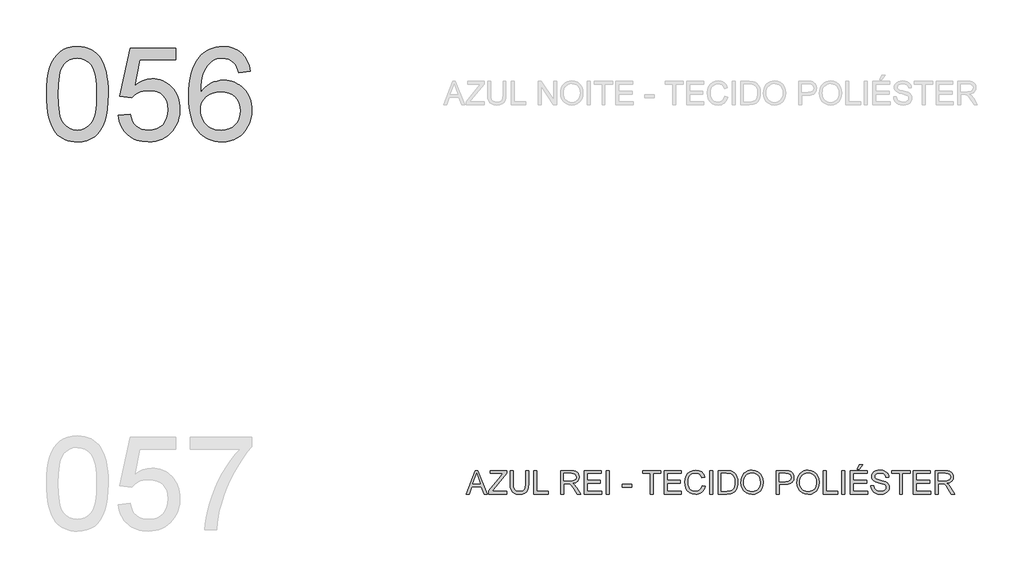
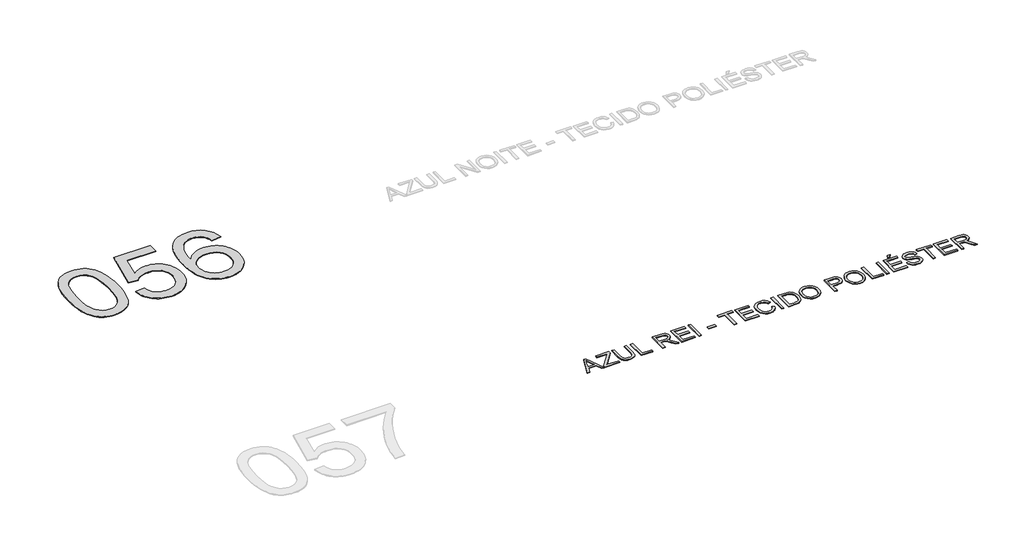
# One storey, part 49 of 67: 2 proxies.
"""IFC4 building model written with IfcOpenShell, lengths in millimetres."""

from ifc_helpers import new_model, si_unit, origin, origin_with_axes, place, context, project, spatial, polyline, outline, extrude, element, save

model = new_model("IFC4")

# Units and contexts
model_context = context("Model", 3, world=origin())
ifc_project = project(units=[si_unit("LENGTHUNIT", "METRE", prefix="MILLI")], contexts=[model_context])

# Site, building, storey
site = spatial("IfcSite", under=ifc_project)
building = spatial("IfcBuilding", under=site)
storey = spatial("IfcBuildingStorey", under=building, Name="Marelli - Linha COLAB - Planta Baixa", Elevation=0.0)

# Proxies
placement = place(None, origin())
element("IfcBuildingElementProxy", 1, Name="1200mm Arial", ObjectType="1200mm Arial", at=placement, inside=storey, context=model_context, shape_type="SweptSolid", body=[
    extrude(outline(polyline([(-134.0424838, -42395.792664), (-131.2741718, -42294.4319773), (-122.9692358, -42202.8385576), (-109.1276757, -42121.0124048), (-89.7494916, -42048.953519), (-64.9174569, -41986.073289), (-34.7143451, -41931.7831035), (0.8598438, -41886.0829627), (41.8051099, -41848.9728664), (88.2594088, -41820.2596767), (140.3606964, -41799.7502555), (198.1089726, -41787.4446027), (261.5042374, -41783.3427185), (309.1449558, -41785.7707396), (354.357653, -41793.0548031), (397.142329, -41805.194909), (437.4989839, -41822.1910572), (474.4527303, -41843.7581391), (507.028681, -41869.6110463), (535.2268359, -41899.7497788), (559.0471951, -41934.1743365), (579.685375, -41972.7467637), (598.3369922, -42015.3291046), (629.6805382, -42112.5235278), (641.6550971, -42169.6831928), (650.2083535, -42235.9479371), (655.3403073, -42311.3177609), (657.0509586, -42395.792664), (654.3102377, -42496.5095573), (646.0880752, -42587.6431245), (632.3844708, -42669.1933658), (613.1994248, -42741.1602811), (588.5605282, -42804.0681023), (558.4953721, -42858.4410612), (523.0039566, -42904.2791578), (482.0862817, -42941.5823921), (435.5768005, -42970.4887199), (383.309966, -42991.1360968), (325.2857783, -43003.524523), (261.5042374, -43007.6539984), (218.829926, -43005.8605737), (178.5100593, -43000.4802995), (140.5446374, -42991.5131759), (104.9336602, -42978.9592028), (71.6771279, -42962.8183803), (40.7750403, -42943.0907083), (12.2273975, -42919.7761868), (-13.9658006, -42892.8748159), (-42.1087732, -42850.2786794), (-66.4993495, -42802.0999336), (-87.1375294, -42748.3385785), (-104.023313, -42688.9946142), (-117.1567002, -42624.0680406), (-126.5376911, -42553.5588577), (-132.1662856, -42477.4670655), (-134.0424838, -42395.792664)]), holes=[polyline([(16.6419814, -42395.4983584), (21.0565653, -42526.4919399), (34.3003172, -42632.5247279), (44.233131, -42676.1808245), (56.3732369, -42713.5967226), (70.7206347, -42744.7724225), (87.2753245, -42769.7079239), (124.6521352, -42807.884878), (166.1492242, -42835.1541309), (211.7665916, -42851.5156826), (261.5042374, -42856.9695332), (311.2418831, -42851.4972885), (356.8592505, -42835.0805545), (398.3563396, -42807.7193311), (435.7331503, -42769.4136183), (452.2878401, -42744.418336), (466.6352379, -42713.2104465), (478.7753437, -42675.7899498), (488.7081576, -42632.1568459), (501.9519094, -42526.2528166), (506.3664934, -42395.4983584), (502.0990622, -42267.9720648), (489.2967688, -42163.8062779), (479.6950487, -42120.4835744), (467.9596131, -42083.0009976), (454.0904619, -42051.3585475), (438.0875951, -42025.5562241), (401.3361838, -41985.5122689), (359.3608481, -41956.9094438), (312.1615881, -41939.7477487), (259.7384038, -41934.0271837), (210.2582755, -41939.067167), (165.4134603, -41954.187117), (125.2039582, -41979.3870337), (89.6297692, -42014.666917), (72.5232565, -42043.2145599), (57.6976121, -42077.2068562), (45.152836, -42116.6438061), (34.8889284, -42161.5254095), (21.2037181, -42267.6225769), (16.6419814, -42395.4983584)])]), origin_with_axes(), (0.0, 0.0, 1.0), 10.0),
    extrude(outline(polyline([(788.8998657, -42668.6139517), (939.5843309, -42649.7783935), (950.84152, -42698.2192552), (967.2490569, -42740.2405761), (988.8069419, -42775.8423562), (1015.5151747, -42805.0245955), (1047.3185732, -42827.7505057), (1084.161955, -42843.9832988), (1126.0453202, -42853.7229746), (1172.9686686, -42856.9695332), (1230.3582599, -42852.4537817), (1280.9788224, -42838.9065272), (1324.8303563, -42816.3277698), (1361.9128614, -42784.7175093), (1391.3986033, -42745.6392444), (1412.4598475, -42700.6564734), (1425.096594, -42649.7691965), (1429.3088429, -42592.9774135), (1425.3633085, -42539.3034304), (1413.5267053, -42491.5891356), (1393.7990333, -42449.8345291), (1366.1802925, -42414.039611), (1330.5785124, -42385.3264213), (1286.9017225, -42364.817), (1235.1499229, -42352.5113473), (1175.3231134, -42348.4094631), (1137.0357948, -42350.0465379), (1102.224961, -42354.9577626), (1070.890612, -42363.143137), (1043.0327479, -42374.6026611), (995.7599116, -42404.6954083), (958.4198891, -42442.5872538), (807.7354238, -42423.7516957), (939.5843309, -41802.1782766), (1523.4866336, -41802.1782766), (1523.4866336, -41952.8627418), (1061.4268477, -41952.8627418), (996.9739222, -42284.8394543), (1050.1512646, -42246.7268796), (1104.6161939, -42219.503612), (1160.3687103, -42203.1696514), (1217.4088137, -42197.7249978), (1254.8477045, -42199.4126565), (1290.7920746, -42204.4756324), (1325.2419242, -42212.9139257), (1358.1972532, -42224.7275363), (1389.6580616, -42239.9164642), (1419.6243494, -42258.4807093), (1448.0961165, -42280.4202718), (1475.0733631, -42305.7351516), (1499.6639752, -42333.7033803), (1520.975839, -42363.6029895), (1539.0089546, -42395.4339791), (1553.7633219, -42429.1963492), (1565.2389408, -42464.8900998), (1573.4358115, -42502.5152308), (1578.353934, -42542.0717424), (1579.9933081, -42583.5596344), (1574.0888021, -42661.6241938), (1566.7081696, -42698.6147284), (1556.375284, -42734.2440996), (1543.0901455, -42768.5123075), (1526.8527539, -42801.4193519), (1507.6631093, -42832.965233), (1485.5212117, -42863.1499507), (1455.520435, -42897.0180869), (1422.9076962, -42926.3704716), (1387.6829951, -42951.2071048), (1349.8463319, -42971.5279865), (1309.3977066, -42987.3331167), (1266.337119, -42998.6224954), (1220.6645693, -43005.3961227), (1172.3800575, -43007.6539984), (1094.6190007, -43001.8506599), (1058.5596674, -42994.5964869), (1024.3811308, -42984.4406445), (992.0833909, -42971.383133), (961.6664477, -42955.4239522), (933.1303012, -42936.5631021), (906.4749513, -42914.8005828), (882.1372581, -42890.6422321), (860.5540813, -42864.5938875), (841.7254209, -42836.6555493), (825.651277, -42806.8272173), (812.3316495, -42775.1088915), (801.7665385, -42741.500572), (788.8998657, -42668.6139517)])), origin_with_axes(), (0.0, 0.0, 1.0), 10.0),
    extrude(outline(polyline([(2484.1000995, -42103.5472071), (2333.4156342, -42122.3827652), (2322.3423862, -42082.0812927), (2309.1354225, -42047.7027202), (2293.7947433, -42019.2470479), (2276.3203486, -41996.7142757), (2243.9283389, -41969.2886729), (2207.9678739, -41949.6989567), (2168.4389535, -41937.9451269), (2125.3415778, -41934.0271837), (2089.804177, -41936.3080521), (2055.2968459, -41943.1506572), (2021.8195843, -41954.554999), (1989.3723923, -41970.5210776), (1959.7670888, -41996.6315022), (1932.7553533, -42028.1681863), (1908.3371859, -42065.1311297), (1886.5125865, -42107.5203326), (1868.4403835, -42158.1316981), (1855.2794051, -42219.7611293), (1847.0296514, -42292.4086263), (1843.6911222, -42376.0741891), (1872.413509, -42338.2099347), (1904.1341341, -42305.5512106), (1938.8529974, -42278.0980167), (1976.5700989, -42255.8503531), (2016.2737632, -42238.6610669), (2056.9523149, -42226.3830053), (2098.6057538, -42219.0161683), (2141.2340799, -42216.560556), (2178.1326441, -42218.2390176), (2213.6332566, -42223.2744024), (2247.7359176, -42231.6667104), (2280.4406269, -42243.4159416), (2311.7473847, -42258.5220961), (2341.6561909, -42276.9851737), (2370.1670455, -42298.8051745), (2397.2799486, -42323.9820986), (2422.0430054, -42351.81697), (2443.5043213, -42381.6108131), (2461.6638963, -42413.3636278), (2476.5217304, -42447.0754142), (2488.0778235, -42482.7461721), (2496.3321758, -42520.3759017), (2501.2847872, -42559.9646029), (2502.9356576, -42601.5122757), (2499.8270547, -42656.4462547), (2490.5012462, -42709.4120649), (2474.9582319, -42760.4097065), (2453.1980119, -42809.4391794), (2425.9931383, -42854.6702707), (2394.1161634, -42894.2727675), (2357.5670872, -42928.2466698), (2316.3459097, -42956.5919775), (2271.3355475, -42978.9316116), (2223.4189177, -42994.8884932), (2172.59602, -43004.4626221), (2118.8668546, -43007.6539984), (2072.8655104, -43005.5386769), (2029.0392685, -42999.1927125), (1987.3881288, -42988.6161052), (1947.9120915, -42973.8088549), (1910.6111564, -42954.7709616), (1875.4853237, -42931.5024254), (1842.5345932, -42904.0032463), (1811.7589651, -42872.2734242), (1783.9263929, -42835.6875598), (1759.8048303, -42793.6202536), (1739.3942774, -42746.0715057), (1722.694734, -42693.0413161), (1709.7062003, -42634.5296848), (1700.4286763, -42570.5366117), (1694.8621618, -42501.062097), (1693.006657, -42426.1061404), (1695.0667962, -42342.1784618), (1701.2472137, -42264.1828803), (1711.5479096, -42192.1193959), (1725.9688838, -42125.9880088), (1744.5101363, -42065.7887188), (1767.1716673, -42011.521526), (1793.9534765, -41963.1864303), (1824.8555641, -41920.7834319), (1854.8701364, -41888.5707647), (1887.3771092, -41860.6531198), (1922.3764825, -41837.0304971), (1959.8682563, -41817.7028968), (1999.8524307, -41802.6703188), (2042.3290055, -41791.9327631), (2087.2979809, -41785.4902296), (2134.7593568, -41783.3427185), (2204.1602952, -41788.6586133), (2266.9761459, -41804.6062978), (2323.2069089, -41831.1857719), (2372.8525841, -41868.3970358), (2414.5704024, -41914.9892904), (2447.0175943, -41969.7117372), (2470.19416, -42032.5643761), (2484.1000995, -42103.5472071)]), holes=[polyline([(1843.6911222, -42599.157831), (1845.8708231, -42632.9202011), (1852.4099255, -42665.9284131), (1863.3084296, -42698.182467), (1878.5663354, -42729.6823629), (1897.4386817, -42758.9473756), (1919.1805077, -42784.4967801), (1943.7918131, -42806.3305766), (1971.2725982, -42824.4487648), (2001.4481188, -42838.676601), (2034.1436312, -42848.8393411), (2069.3591351, -42854.9369852), (2107.0946308, -42856.9695332), (2159.4718299, -42852.7572843), (2206.5331341, -42840.1205378), (2248.2785435, -42819.0592936), (2284.7080581, -42789.5735517), (2314.2581793, -42752.8589286), (2335.3654088, -42710.1110407), (2348.0297465, -42661.3298882), (2352.2511924, -42606.5154709), (2348.0849288, -42553.8439662), (2335.586138, -42507.0769676), (2314.75482, -42466.214475), (2285.5909749, -42431.2564884), (2249.0510957, -42403.2514715), (2206.0916757, -42383.247888), (2156.7127149, -42371.2457379), (2100.9142133, -42367.2450212), (2049.23599, -42371.2457379), (2001.6228628, -42383.247888), (1958.0748316, -42403.2514715), (1918.5918965, -42431.2564884), (1885.8228077, -42465.7546225), (1862.4163158, -42505.2375576), (1848.3724206, -42549.7052938), (1843.6911222, -42599.157831)])]), origin_with_axes(), (0.0, 0.0, 1.0), 10.0),
])
element("IfcBuildingElementProxy", 2, Name="300mm Arial", ObjectType="300mm Arial", at=placement, inside=storey, context=model_context, shape_type="SweptSolid", body=[
    extrude(outline(polyline([(5254.2412875, -47530.5663201), (5374.5386999, -47229.1973896), (5406.6180099, -47229.1973896), (5526.9154223, -47530.5663201), (5487.1105904, -47530.5663201), (5452.6032593, -47436.3885293), (5328.4798741, -47436.3885293), (5294.0461193, -47530.5663201), (5254.2412875, -47530.5663201)]), holes=[polyline([(5342.3122371, -47398.717413), (5438.8444726, -47398.717413), (5411.6947814, -47324.6259792), (5390.5783549, -47266.8685059), (5371.8163731, -47318.1512561), (5342.3122371, -47398.717413)])]), origin_with_axes(), (0.0, 0.0, 1.0), 10.0),
    extrude(outline(polyline([(5543.6172649, -47530.5663201), (5543.6172649, -47491.4972522), (5697.7598209, -47302.7737887), (5727.0432277, -47266.8685059), (5562.452823, -47266.8685059), (5562.452823, -47229.1973896), (5774.3528522, -47229.1973896), (5774.3528522, -47266.8685059), (5605.6421693, -47473.397458), (5589.7496671, -47492.8952038), (5779.0617418, -47492.8952038), (5779.0617418, -47530.5663201), (5543.6172649, -47530.5663201)])), origin_with_axes(), (0.0, 0.0, 1.0), 10.0),
    extrude(outline(polyline([(6019.2151082, -47229.1973896), (6056.8862245, -47229.1973896), (6056.8862245, -47403.0584205), (6054.3294447, -47443.7737604), (6046.6591051, -47475.1265034), (6032.3301014, -47499.3147446), (6009.7973292, -47518.5365788), (5979.0056062, -47531.0905519), (5939.8997501, -47535.2752096), (5901.6492196, -47531.6331779), (5871.0690288, -47520.7070826), (5848.1499805, -47502.8740029), (5832.8828777, -47478.5110178), (5824.3020301, -47445.8338995), (5821.4417476, -47403.0584205), (5821.4417476, -47229.1973896), (5859.1128639, -47229.1973896), (5859.1128639, -47401.7340454), (5860.970668, -47435.588386), (5866.5440802, -47459.1604248), (5876.642441, -47475.4851883), (5892.0750907, -47487.597703), (5912.1982358, -47495.1024957), (5936.3680829, -47497.6040933), (5974.6829927, -47492.6560805), (5989.025792, -47486.4710644), (6000.1588209, -47477.812042), (6008.4959466, -47465.6351479), (6014.4510364, -47448.8965171), (6019.2151082, -47401.7340454), (6019.2151082, -47229.1973896)])), origin_with_axes(), (0.0, 0.0, 1.0), 10.0),
    extrude(outline(polyline([(6122.8106781, -47530.5663201), (6122.8106781, -47229.1973896), (6160.4817944, -47229.1973896), (6160.4817944, -47492.8952038), (6311.1662596, -47492.8952038), (6311.1662596, -47530.5663201), (6122.8106781, -47530.5663201)])), origin_with_axes(), (0.0, 0.0, 1.0), 10.0),
    extrude(outline(polyline([(6471.2685039, -47530.5663201), (6471.2685039, -47229.1973896), (6601.1308482, -47229.1973896), (6636.0336525, -47231.2299376), (6661.4267072, -47237.3275817), (6679.9863539, -47248.5847708), (6694.388934, -47266.0959537), (6703.6319691, -47287.8101885), (6706.7129808, -47311.6765329), (6701.6086181, -47341.3646099), (6686.2955301, -47365.9759154), (6674.6957509, -47376.0052983), (6660.3138642, -47384.0205273), (6623.2037679, -47394.0085235), (6644.6145, -47410.1217548), (6675.1487056, -47448.8965171), (6725.4013862, -47530.5663201), (6681.6234288, -47530.5663201), (6642.4072081, -47468.0999573), (6614.0802944, -47426.750021), (6594.1778785, -47407.2154871), (6576.2620253, -47400.0417882), (6554.4098348, -47398.717413), (6508.9396202, -47398.717413), (6508.9396202, -47530.5663201), (6471.2685039, -47530.5663201)]), holes=[polyline([(6508.9396202, -47361.0462967), (6593.2581735, -47361.0462967), (6617.4740058, -47359.7127245), (6636.2635787, -47355.7120078), (6650.4086415, -47348.7774322), (6660.6909432, -47338.6422832), (6666.9541342, -47326.3826157), (6669.0418645, -47313.0744845), (6665.0595419, -47294.6987789), (6653.1125741, -47279.8915286), (6632.5571676, -47270.1242616), (6602.749529, -47266.8685059), (6508.9396202, -47266.8685059), (6508.9396202, -47361.0462967)])]), origin_with_axes(), (0.0, 0.0, 1.0), 10.0),
    extrude(outline(polyline([(6772.6374344, -47530.5663201), (6772.6374344, -47229.1973896), (6989.2463531, -47229.1973896), (6989.2463531, -47266.8685059), (6810.3085507, -47266.8685059), (6810.3085507, -47356.3374072), (6979.828574, -47356.3374072), (6979.828574, -47394.0085235), (6810.3085507, -47394.0085235), (6810.3085507, -47492.8952038), (6993.9552427, -47492.8952038), (6993.9552427, -47530.5663201), (6772.6374344, -47530.5663201)])), origin_with_axes(), (0.0, 0.0, 1.0), 10.0),
    extrude(outline(polyline([(7055.1708067, -47530.5663201), (7055.1708067, -47229.1973896), (7092.841923, -47229.1973896), (7092.841923, -47530.5663201), (7055.1708067, -47530.5663201)])), origin_with_axes(), (0.0, 0.0, 1.0), 10.0),
    extrude(outline(polyline([(7262.3619463, -47441.0974188), (7262.3619463, -47403.4263025), (7380.0841848, -47403.4263025), (7380.0841848, -47441.0974188), (7262.3619463, -47441.0974188)])), origin_with_axes(), (0.0, 0.0, 1.0), 10.0),
    extrude(outline(polyline([(7620.2375512, -47530.5663201), (7620.2375512, -47266.8685059), (7521.3508709, -47266.8685059), (7521.3508709, -47229.1973896), (7756.7953479, -47229.1973896), (7756.7953479, -47266.8685059), (7657.9086676, -47266.8685059), (7657.9086676, -47530.5663201), (7620.2375512, -47530.5663201)])), origin_with_axes(), (0.0, 0.0, 1.0), 10.0),
    extrude(outline(polyline([(7799.1753537, -47530.5663201), (7799.1753537, -47229.1973896), (8015.7842725, -47229.1973896), (8015.7842725, -47266.8685059), (7836.84647, -47266.8685059), (7836.84647, -47356.3374072), (8006.3664934, -47356.3374072), (8006.3664934, -47394.0085235), (7836.84647, -47394.0085235), (7836.84647, -47492.8952038), (8020.493162, -47492.8952038), (8020.493162, -47530.5663201), (7799.1753537, -47530.5663201)])), origin_with_axes(), (0.0, 0.0, 1.0), 10.0),
    extrude(outline(polyline([(8288.8998657, -47423.4390831), (8326.570982, -47433.1511677), (8319.1167731, -47456.5783531), (8309.1885577, -47477.0486868), (8296.786336, -47494.5621691), (8281.9101078, -47509.1187997), (8264.8955655, -47520.5622291), (8246.0784014, -47528.7361071), (8225.4586156, -47533.640434), (8203.036208, -47535.2752096), (8159.341024, -47530.3271968), (8124.6405548, -47515.4831583), (8098.0426866, -47491.2581289), (8078.6553054, -47458.1671434), (8066.8187022, -47419.2636224), (8062.8731678, -47377.6009865), (8067.333737, -47333.6574821), (8080.7154446, -47295.7104543), (8102.3193148, -47264.9647166), (8131.4463717, -47242.6250824), (8165.9904911, -47229.0226457), (8203.8455484, -47224.4885001), (8245.1494994, -47230.3562179), (8263.1182356, -47237.6908652), (8279.2981456, -47247.9593714), (8293.422515, -47260.8904235), (8305.2246292, -47276.2127086), (8321.8620924, -47314.0309777), (8284.1909761, -47323.0072984), (8271.1311653, -47295.5357104), (8253.2888885, -47276.6909552), (8230.4434166, -47265.7924511), (8202.3740204, -47262.1596164), (8170.0187989, -47266.1879242), (8143.4393248, -47278.2728478), (8123.2701944, -47297.1451941), (8110.1460042, -47321.5357704), (8102.9447142, -47349.1085259), (8100.5442841, -47377.5274101), (8103.3861726, -47412.3290468), (8111.9118378, -47442.421794), (8126.4431766, -47466.6560205), (8147.3020857, -47483.8820949), (8172.3088644, -47494.1735937), (8199.2838117, -47497.6040933), (8230.7285252, -47492.931992), (8256.9309203, -47478.9156879), (8276.7137746, -47455.702334), (8288.8998657, -47423.4390831)])), origin_with_axes(), (0.0, 0.0, 1.0), 10.0),
    extrude(outline(polyline([(8383.0776564, -47530.5663201), (8383.0776564, -47229.1973896), (8420.7487727, -47229.1973896), (8420.7487727, -47530.5663201), (8383.0776564, -47530.5663201)])), origin_with_axes(), (0.0, 0.0, 1.0), 10.0),
    extrude(outline(polyline([(8496.0910054, -47530.5663201), (8496.0910054, -47229.1973896), (8600.0544572, -47229.1973896), (8653.8388049, -47233.5383972), (8677.8614992, -47241.9077126), (8698.1317971, -47255.0962821), (8718.9723121, -47278.0521186), (8733.8163506, -47306.5997614), (8742.7007008, -47340.1873876), (8745.6621509, -47378.2631741), (8743.657194, -47410.6091985), (8737.6423234, -47439.0740679), (8728.4820617, -47463.3082943), (8717.0409317, -47482.9623899), (8703.8707562, -47498.477813), (8689.5233584, -47510.2960221), (8673.0514421, -47519.0608107), (8653.5077111, -47525.4159721), (8605.0576523, -47530.5663201), (8496.0910054, -47530.5663201)]), holes=[polyline([(8533.7621217, -47492.8952038), (8600.4223392, -47492.8952038), (8627.9950947, -47491.5340404), (8648.9091862, -47487.4505502), (8664.6913238, -47480.8838566), (8676.8682178, -47472.0730828), (8689.9556198, -47455.7667134), (8699.7872661, -47434.6594839), (8705.9400925, -47408.6594239), (8707.9910346, -47377.6745629), (8703.9719238, -47336.6189322), (8691.9145914, -47306.3054558), (8674.0999058, -47285.4833349), (8652.8087353, -47272.9017706), (8631.1404858, -47268.3768221), (8599.3922696, -47266.8685059), (8533.7621217, -47266.8685059), (8533.7621217, -47492.8952038)])]), origin_with_axes(), (0.0, 0.0, 1.0), 10.0),
    extrude(outline(polyline([(8783.3332672, -47383.8549804), (8785.8440618, -47348.5061192), (8793.3764457, -47317.213157), (8805.9304187, -47289.9760937), (8823.5059811, -47266.7949295), (8845.0500704, -47248.2858666), (8869.5096246, -47235.0651074), (8896.8846435, -47227.1326519), (8927.1751273, -47224.4885001), (8966.7040477, -47229.454907), (9002.1494779, -47244.3541278), (9031.5800375, -47268.1376988), (9053.0643461, -47299.7571563), (9066.1977333, -47337.68579), (9070.575529, -47380.3968896), (9065.967807, -47423.6782064), (9052.1446411, -47462.140269), (9029.8693863, -47493.8149087), (8999.9053978, -47516.733957), (8964.7634702, -47530.6398965), (8926.9543981, -47535.2752096), (8886.8184724, -47530.1524528), (8851.1707071, -47514.7841825), (8821.8137239, -47490.5591531), (8800.5501446, -47458.8661192), (8787.6374865, -47422.3998164), (8783.3332672, -47383.8549804)]), holes=[polyline([(8821.0043835, -47384.2228624), (8822.8874795, -47409.1974513), (8828.5367674, -47431.3669401), (8837.9522472, -47450.7313286), (8851.1339189, -47467.2906169), (8867.1574791, -47480.5527628), (8885.0986241, -47490.0257242), (8904.9573541, -47495.709501), (8926.7336689, -47497.6040933), (8948.8824643, -47495.6911069), (8968.975719, -47489.9521478), (8987.0134331, -47480.3872159), (9002.9956065, -47466.9963113), (9016.0807092, -47450.0875351), (9025.4272112, -47429.9689885), (9031.0351123, -47406.6406715), (9032.9044127, -47380.102584), (9029.7038394, -47346.7540812), (9020.1021193, -47317.9305269), (9004.3475728, -47294.358488), (8982.6885204, -47276.7645316), (8956.5597017, -47265.8108452), (8927.3958565, -47262.1596164), (8906.375999, -47263.9185522), (8886.8736547, -47269.1953595), (8868.8888237, -47277.9900385), (8852.4215059, -47290.302589), (8838.6765148, -47306.7262208), (8828.8586641, -47327.8541437), (8822.9679537, -47353.6863575), (8821.0043835, -47384.2228624)])]), origin_with_axes(), (0.0, 0.0, 1.0), 10.0),
    extrude(outline(polyline([(9240.0955524, -47530.5663201), (9240.0955524, -47229.1973896), (9351.7845261, -47229.1973896), (9396.8132824, -47232.0668692), (9416.8904422, -47237.4287493), (9433.4175409, -47246.1567496), (9446.725672, -47258.6463433), (9457.1459296, -47275.2930036), (9463.8781701, -47294.9287051), (9466.1222502, -47316.3854225), (9464.6070363, -47334.8852883), (9460.0613944, -47351.9044291), (9452.4853245, -47367.4428449), (9441.8788268, -47381.5005356), (9427.3175975, -47393.1531978), (9407.8773334, -47401.476528), (9383.5580342, -47406.470526), (9354.3597001, -47408.1351921), (9277.7666687, -47408.1351921), (9277.7666687, -47530.5663201), (9240.0955524, -47530.5663201)]), holes=[polyline([(9277.7666687, -47370.4640758), (9356.5669921, -47370.4640758), (9389.9706772, -47367.005985), (9412.043597, -47356.6317127), (9424.3492497, -47339.9850525), (9428.4511339, -47317.7097977), (9426.0323098, -47300.7872259), (9418.7758375, -47286.5134045), (9407.5830278, -47275.7712502), (9393.3551916, -47269.4436799), (9355.6840753, -47266.8685059), (9277.7666687, -47266.8685059), (9277.7666687, -47370.4640758)])]), origin_with_axes(), (0.0, 0.0, 1.0), 10.0),
    extrude(outline(polyline([(9503.7933666, -47383.8549804), (9506.3041612, -47348.5061192), (9513.836545, -47317.213157), (9526.3905181, -47289.9760937), (9543.9660804, -47266.7949295), (9565.5101698, -47248.2858666), (9589.9697239, -47235.0651074), (9617.3447429, -47227.1326519), (9647.6352267, -47224.4885001), (9687.164147, -47229.454907), (9722.6095773, -47244.3541278), (9752.0401369, -47268.1376988), (9773.5244454, -47299.7571563), (9786.6578326, -47337.68579), (9791.0356284, -47380.3968896), (9786.4279064, -47423.6782064), (9772.6047404, -47462.140269), (9750.3294856, -47493.8149087), (9720.3654971, -47516.733957), (9685.2235695, -47530.6398965), (9647.4144975, -47535.2752096), (9607.2785718, -47530.1524528), (9571.6308065, -47514.7841825), (9542.2738232, -47490.5591531), (9521.0102439, -47458.8661192), (9508.0975859, -47422.3998164), (9503.7933666, -47383.8549804)]), holes=[polyline([(9541.4644829, -47384.2228624), (9543.3475788, -47409.1974513), (9548.9968667, -47431.3669401), (9558.4123465, -47450.7313286), (9571.5940183, -47467.2906169), (9587.6175784, -47480.5527628), (9605.5587235, -47490.0257242), (9625.4174534, -47495.709501), (9647.1937683, -47497.6040933), (9669.3425636, -47495.6911069), (9689.4358184, -47489.9521478), (9707.4735324, -47480.3872159), (9723.4557059, -47466.9963113), (9736.5408086, -47450.0875351), (9745.8873105, -47429.9689885), (9751.4952117, -47406.6406715), (9753.3645121, -47380.102584), (9750.1639387, -47346.7540812), (9740.5622186, -47317.9305269), (9724.8076722, -47294.358488), (9703.1486197, -47276.7645316), (9677.019801, -47265.8108452), (9647.8559559, -47262.1596164), (9626.8360984, -47263.9185522), (9607.3337541, -47269.1953595), (9589.3489231, -47277.9900385), (9572.8816052, -47290.302589), (9559.1366142, -47306.7262208), (9549.3187635, -47327.8541437), (9543.428053, -47353.6863575), (9541.4644829, -47384.2228624)])]), origin_with_axes(), (0.0, 0.0, 1.0), 10.0),
    extrude(outline(polyline([(9842.8334133, -47530.5663201), (9842.8334133, -47229.1973896), (9880.5045296, -47229.1973896), (9880.5045296, -47492.8952038), (10031.1889948, -47492.8952038), (10031.1889948, -47530.5663201), (9842.8334133, -47530.5663201)])), origin_with_axes(), (0.0, 0.0, 1.0), 10.0),
    extrude(outline(polyline([(10078.2778902, -47530.5663201), (10078.2778902, -47229.1973896), (10115.9490065, -47229.1973896), (10115.9490065, -47530.5663201), (10078.2778902, -47530.5663201)])), origin_with_axes(), (0.0, 0.0, 1.0), 10.0),
    extrude(outline(polyline([(10191.2912391, -47530.5663201), (10191.2912391, -47229.1973896), (10407.9001579, -47229.1973896), (10407.9001579, -47266.8685059), (10228.9623554, -47266.8685059), (10228.9623554, -47356.3374072), (10398.4823788, -47356.3374072), (10398.4823788, -47394.0085235), (10228.9623554, -47394.0085235), (10228.9623554, -47492.8952038), (10412.6090474, -47492.8952038), (10412.6090474, -47530.5663201), (10191.2912391, -47530.5663201)])), origin_with_axes(), (0.0, 0.0, 1.0), 10.0),
    extrude(outline(polyline([(10276.0512508, -47210.3618315), (10304.3045881, -47153.855157), (10351.3934834, -47153.855157), (10304.3045881, -47210.3618315), (10276.0512508, -47210.3618315)])), origin_with_axes(), (0.0, 0.0, 1.0), 10.0),
    extrude(outline(polyline([(10454.9890533, -47426.9707502), (10492.6601696, -47426.9707502), (10496.982783, -47447.8756446), (10504.8002754, -47464.6786547), (10516.9955636, -47478.0143771), (10534.4515642, -47488.517408), (10555.78872, -47495.332422), (10579.6274732, -47497.6040933), (10600.6151411, -47495.884245), (10618.9908467, -47490.7247), (10633.8808705, -47482.5577197), (10644.4114926, -47471.8155654), (10650.6746836, -47459.4823216), (10652.7624139, -47446.5420724), (10651.1989154, -47433.932917), (10646.50842, -47423.0344129), (10636.9802763, -47413.7361954), (10620.9038331, -47405.9279001), (10566.0526276, -47391.5437141), (10530.0461773, -47382.0247675), (10507.0075674, -47372.9656733), (10488.2547827, -47360.2921386), (10474.9650456, -47344.9330653), (10467.0463857, -47327.2195472), (10464.4068324, -47307.4826782), (10467.6717851, -47285.4189555), (10477.4666432, -47264.845155), (10493.5338893, -47247.4075484), (10515.6160061, -47234.7524077), (10542.1219038, -47227.054477), (10571.460493, -47224.4885001), (10603.2454973, -47227.1740386), (10631.0573762, -47235.2306543), (10653.9028481, -47248.4928003), (10670.7886317, -47266.7949295), (10681.4756036, -47288.9966079), (10685.7246407, -47313.9574013), (10648.0535243, -47313.9574013), (10641.1373428, -47291.4798114), (10626.7163686, -47275.2562154), (10604.1835964, -47265.4337661), (10572.9320209, -47262.1596164), (10540.9446815, -47265.3969779), (10519.0005204, -47275.1090626), (10506.3085916, -47289.4012781), (10502.0779487, -47306.3790322), (10505.0761869, -47320.8551887), (10514.0709017, -47332.4986539), (10535.334481, -47342.9097143), (10575.5807713, -47353.541504), (10617.1146486, -47363.6398648), (10642.2409888, -47372.4506385), (10663.7161003, -47386.1174547), (10678.6980945, -47402.9848441), (10687.4996713, -47422.868866), (10690.4335302, -47445.5855792), (10687.0582129, -47468.8081301), (10676.932261, -47490.6511236), (10660.4695417, -47509.4498935), (10638.0839223, -47523.539774), (10611.1641573, -47532.3413507), (10581.0990012, -47535.2752096), (10544.1912401, -47532.1114244), (10513.8133843, -47522.620069), (10489.6159461, -47506.764355), (10471.2494375, -47484.5074943), (10459.4588195, -47457.3945912), (10454.9890533, -47426.9707502)])), origin_with_axes(), (0.0, 0.0, 1.0), 10.0),
    extrude(outline(polyline([(10822.2824373, -47530.5663201), (10822.2824373, -47266.8685059), (10723.395757, -47266.8685059), (10723.395757, -47229.1973896), (10958.8402339, -47229.1973896), (10958.8402339, -47266.8685059), (10859.9535536, -47266.8685059), (10859.9535536, -47530.5663201), (10822.2824373, -47530.5663201)])), origin_with_axes(), (0.0, 0.0, 1.0), 10.0),
    extrude(outline(polyline([(11001.2202397, -47530.5663201), (11001.2202397, -47229.1973896), (11217.8291585, -47229.1973896), (11217.8291585, -47266.8685059), (11038.891356, -47266.8685059), (11038.891356, -47356.3374072), (11208.4113794, -47356.3374072), (11208.4113794, -47394.0085235), (11038.891356, -47394.0085235), (11038.891356, -47492.8952038), (11222.538048, -47492.8952038), (11222.538048, -47530.5663201), (11001.2202397, -47530.5663201)])), origin_with_axes(), (0.0, 0.0, 1.0), 10.0),
    extrude(outline(polyline([(11279.0447225, -47530.5663201), (11279.0447225, -47229.1973896), (11408.9070668, -47229.1973896), (11443.8098711, -47231.2299376), (11469.2029258, -47237.3275817), (11487.7625724, -47248.5847708), (11502.1651526, -47266.0959537), (11511.4081877, -47287.8101885), (11514.4891994, -47311.6765329), (11509.3848367, -47341.3646099), (11494.0717487, -47365.9759154), (11482.4719695, -47376.0052983), (11468.0900827, -47384.0205273), (11430.9799865, -47394.0085235), (11452.3907186, -47410.1217548), (11482.9249242, -47448.8965171), (11533.1776047, -47530.5663201), (11489.3996473, -47530.5663201), (11450.1834266, -47468.0999573), (11421.856513, -47426.750021), (11401.9540971, -47407.2154871), (11384.0382439, -47400.0417882), (11362.1860534, -47398.717413), (11316.7158388, -47398.717413), (11316.7158388, -47530.5663201), (11279.0447225, -47530.5663201)]), holes=[polyline([(11316.7158388, -47361.0462967), (11401.0343921, -47361.0462967), (11425.2502244, -47359.7127245), (11444.0397973, -47355.7120078), (11458.18486, -47348.7774322), (11468.4671618, -47338.6422832), (11474.7303528, -47326.3826157), (11476.8180831, -47313.0744845), (11472.8357605, -47294.6987789), (11460.8887927, -47279.8915286), (11440.3333862, -47270.1242616), (11410.5257476, -47266.8685059), (11316.7158388, -47266.8685059), (11316.7158388, -47361.0462967)])]), origin_with_axes(), (0.0, 0.0, 1.0), 10.0),
])

save(model, "model.ifc")
